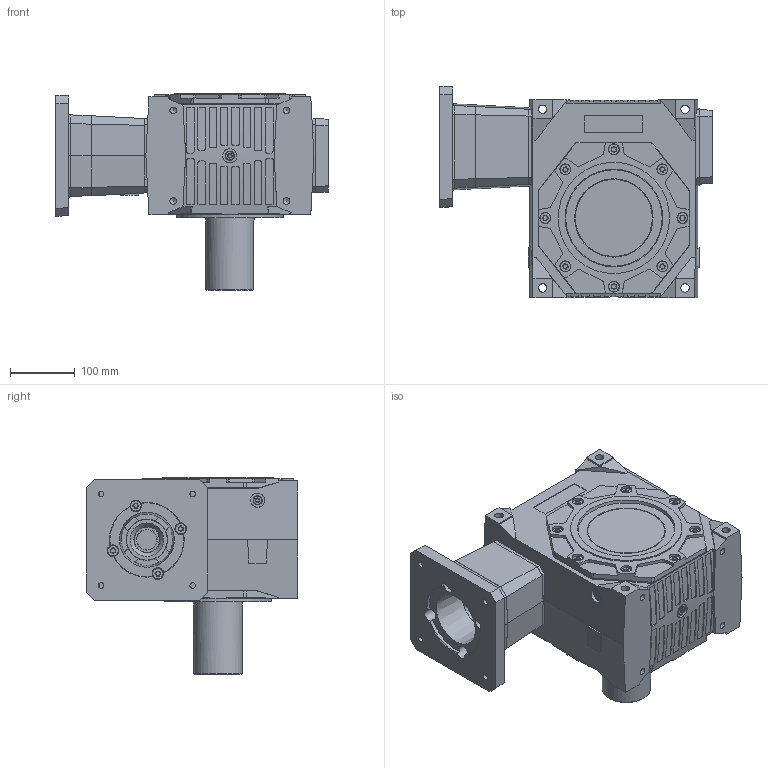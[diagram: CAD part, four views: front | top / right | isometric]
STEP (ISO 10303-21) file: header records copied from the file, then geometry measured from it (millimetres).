
FILE_DESCRIPTION( ( 'STEP AP203' ), '1' );
FILE_NAME( ' ', ' ', ( ' ' ), ( ' ' ), 'XStep 1.0', ' ', ' ' );
FILE_SCHEMA( ( 'CONFIG_CONTROL_DESIGN' ) );
Length unit declared in the file: millimetre
Products named in the file (38): 1; 2; 3; 4; 5; 6; 7; 8; 9; 10; 11; 12; 13; 14; 15; 16; 17; 18; 19; 20; 21; 22; 23; 24; 25; 26; 27; 28; 29; 30; 31; 32; 33; 34; 35; 36; 37; 38
Bounding box: 421 x 326.55 x 304 mm (x, y, z)
Volume: 9472451.7 mm3; surface area: 1407299.8 mm2
Topology: 38 solids, 38 shells, 1838 faces, 4580 edges, 2929 vertices
Faces by surface type: plane 801, cylinder 779, cone 145, torus 61, sphere 39, bspline 13
Full cylindrical faces by diameter (mm): 6.75 x2, 8 x10, 8.4 x1, 8.5 x56, 8.8 x10, 9.73 x8, 10 x40, 10.25 x32, 11 x20, 13 x4, 14 x4, 16 x20, 17 x8, 17.5 x2, 18 x8, 22 x5, 25 x1, 25.5 x1, 28 x3, 32 x1, 37.5 x1, 40 x3, 46.5 x1, 47 x2, 60 x2, 68 x2, 69 x1, 70 x1, 72 x3, 75 x1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
Entity records: 58066 total; most frequent: CARTESIAN_POINT 14107, DIRECTION 9185, ORIENTED_EDGE 7978, EDGE_CURVE 3989, AXIS2_PLACEMENT_3D 3635, VERTEX_POINT 2821, EDGE_LOOP 2517, FACE_OUTER_BOUND 2132
